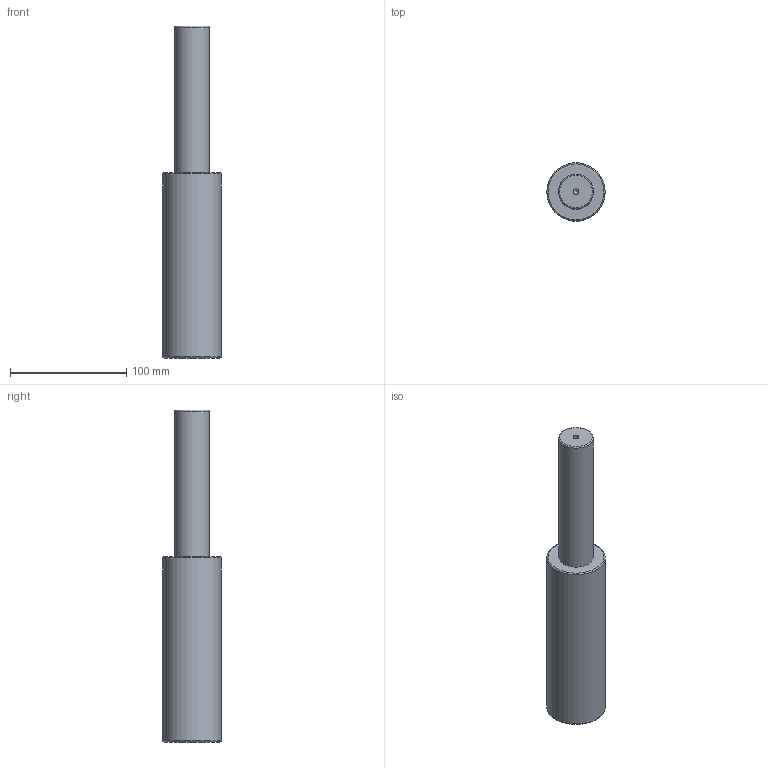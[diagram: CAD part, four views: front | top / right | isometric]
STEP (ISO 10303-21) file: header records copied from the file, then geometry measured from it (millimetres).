
FILE_DESCRIPTION(/* description */ (''),/* implementation_level */ '2;1');
FILE_NAME(/* name */ 'NV5-SMLX.50x125.stp',/* time_stamp */ '2018-08-31T16:08:34+02:00',/* author */ (''),/* organization */ (''),/* preprocessor_version */ 'ST-DEVELOPER v16',/* originating_system */ 'SIEMENS PLM Software NX 10.0',/* authorisation */ '');
FILE_SCHEMA (('AUTOMOTIVE_DESIGN { 1 0 10303 214 3 1 1 1 }'));
Length unit declared in the file: millimetre
Products named in the file (1): NV5-SMLX.50x125
Bounding box: 50 x 50 x 285 mm (x, y, z)
Volume: 399934.4 mm3; surface area: 41240.7 mm2
Topology: 1 solids, 1 shells, 12 faces, 24 edges, 15 vertices
Faces by surface type: cylinder 4, torus 3, plane 3, cone 2
Full cylindrical faces by diameter (mm): 5 x1, 8.5 x1, 30 x1, 50 x1
Entity records: 266 total; most frequent: DIRECTION 48, CARTESIAN_POINT 37, FACE_BOUND 24, AXIS2_PLACEMENT_3D 24, EDGE_LOOP 22, ORIENTED_EDGE 22, VERTEX_POINT 13, ADVANCED_FACE 12
